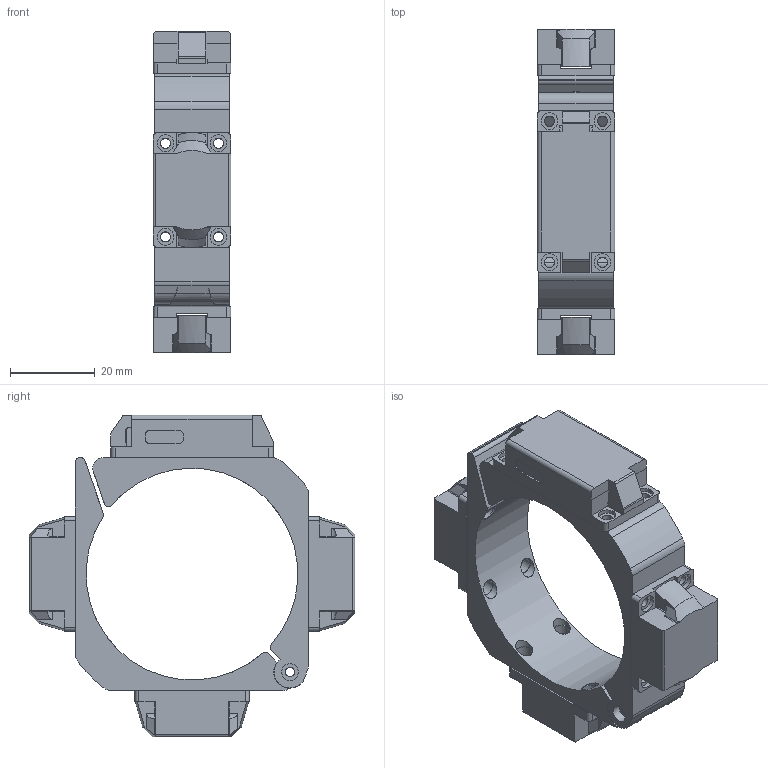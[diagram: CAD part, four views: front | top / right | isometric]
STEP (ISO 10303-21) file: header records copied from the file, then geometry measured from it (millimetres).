
FILE_DESCRIPTION(/* description */ (''),/* implementation_level */ '2;1');
FILE_NAME(/* name */ 'ACCbit_sensor.stp',/* time_stamp */ '2026-08-31T14:34:10+02:00',/* author */ (''),/* organization */ (''),/* preprocessor_version */ 'ST-DEVELOPER v20',/* originating_system */ 'SIEMENS PLM Software NX2312.9162',/* authorisation */ '');
FILE_SCHEMA (('AUTOMOTIVE_DESIGN { 1 0 10303 214 3 1 1 1 }'));
Length unit declared in the file: millimetre
Products named in the file (1): ACCbit_sensor_objects
Bounding box: 18.4 x 76.8 x 75.9 mm (x, y, z)
Volume: 34158.7 mm3; surface area: 20453.5 mm2
Topology: 6 solids, 6 shells, 450 faces, 1258 edges, 851 vertices
Faces by surface type: plane 239, cylinder 185, bspline 16, cone 10
Full cylindrical faces by diameter (mm): 2.2 x3, 2.3 x15, 2.4 x17, 3.2 x2, 3.8 x16, 4 x33, 4.8 x1, 6 x1
Entity records: 15240 total; most frequent: CARTESIAN_POINT 4230, ORIENTED_EDGE 2194, DIRECTION 2152, EDGE_CURVE 1097, AXIS2_PLACEMENT_3D 785, VERTEX_POINT 784, EDGE_LOOP 669, LINE 582
